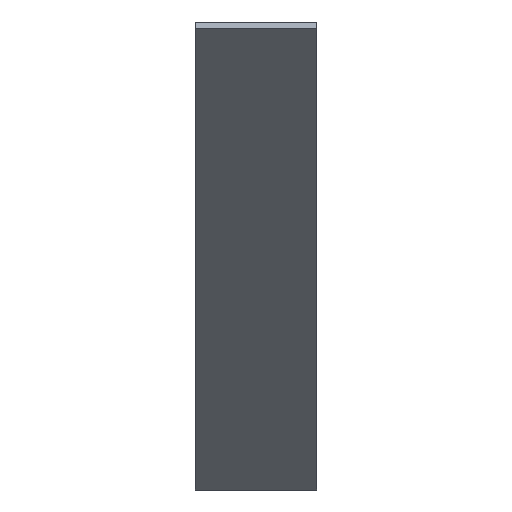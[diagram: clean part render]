
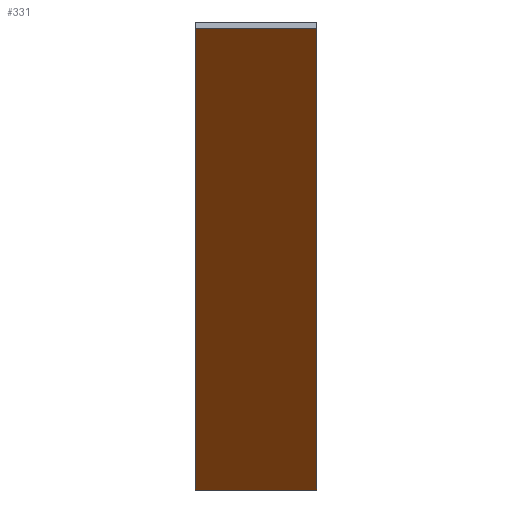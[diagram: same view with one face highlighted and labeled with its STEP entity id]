
A CAD part, left-side view. The second image highlights one B-rep face of the part: STEP entity #331.
In plain terms, the highlighted planar face has unit normal (-0.454, 0, -0.891).
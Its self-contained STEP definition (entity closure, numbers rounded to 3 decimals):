
#22 = VERTEX_POINT('',#23);
#23 = CARTESIAN_POINT('',(-380.,204.,277.));
#32 = PLANE('',#33);
#33 = AXIS2_PLACEMENT_3D('',#34,#35,#36);
#34 = CARTESIAN_POINT('',(-380.,204.,277.));
#35 = DIRECTION('',(-0.,1.,0.));
#36 = DIRECTION('',(0.891,0.,-0.454));
#44 = PLANE('',#45);
#45 = AXIS2_PLACEMENT_3D('',#46,#47,#48);
#46 = CARTESIAN_POINT('',(-380.,252.,277.));
#47 = DIRECTION('',(0.891,0.,-0.454));
#48 = DIRECTION('',(0.,-1.,0.));
#85 = VERTEX_POINT('',#86);
#86 = CARTESIAN_POINT('',(-22.5,204.,95.));
#100 = PLANE('',#101);
#101 = AXIS2_PLACEMENT_3D('',#102,#103,#104);
#102 = CARTESIAN_POINT('',(-22.5,204.,95.));
#103 = DIRECTION('',(-0.891,0.,0.454));
#104 = DIRECTION('',(0.,1.,0.));
#112 = EDGE_CURVE('',#22,#85,#113,.T.);
#113 = SURFACE_CURVE('',#114,(#118,#125),.PCURVE_S1.);
#114 = LINE('',#115,#116);
#115 = CARTESIAN_POINT('',(-380.,204.,277.));
#116 = VECTOR('',#117,1.);
#117 = DIRECTION('',(0.891,0.,-0.454));
#118 = PCURVE('',#32,#119);
#119 = DEFINITIONAL_REPRESENTATION('',(#120),#124);
#120 = LINE('',#121,#122);
#121 = CARTESIAN_POINT('',(0.,0.));
#122 = VECTOR('',#123,1.);
#123 = DIRECTION('',(1.,0.));
#124 = ( GEOMETRIC_REPRESENTATION_CONTEXT(2) 
PARAMETRIC_REPRESENTATION_CONTEXT() REPRESENTATION_CONTEXT('2D SPACE',''
  ) );
#125 = PCURVE('',#126,#131);
#126 = PLANE('',#127);
#127 = AXIS2_PLACEMENT_3D('',#128,#129,#130);
#128 = CARTESIAN_POINT('',(-201.25,228.,186.));
#129 = DIRECTION('',(0.454,0.,0.891));
#130 = DIRECTION('',(0.891,0.,-0.454)
  );
#131 = DEFINITIONAL_REPRESENTATION('',(#132),#136);
#132 = LINE('',#133,#134);
#133 = CARTESIAN_POINT('',(-200.581,-24.));
#134 = VECTOR('',#135,1.);
#135 = DIRECTION('',(1.,0.));
#136 = ( GEOMETRIC_REPRESENTATION_CONTEXT(2) 
PARAMETRIC_REPRESENTATION_CONTEXT() REPRESENTATION_CONTEXT('2D SPACE',''
  ) );
#166 = VERTEX_POINT('',#167);
#167 = CARTESIAN_POINT('',(-22.5,252.,95.));
#181 = PLANE('',#182);
#182 = AXIS2_PLACEMENT_3D('',#183,#184,#185);
#183 = CARTESIAN_POINT('',(-22.5,252.,95.));
#184 = DIRECTION('',(0.,-1.,0.));
#185 = DIRECTION('',(-0.891,0.,0.454));
#193 = EDGE_CURVE('',#85,#166,#194,.T.);
#194 = SURFACE_CURVE('',#195,(#199,#206),.PCURVE_S1.);
#195 = LINE('',#196,#197);
#196 = CARTESIAN_POINT('',(-22.5,204.,95.));
#197 = VECTOR('',#198,1.);
#198 = DIRECTION('',(0.,1.,0.));
#199 = PCURVE('',#100,#200);
#200 = DEFINITIONAL_REPRESENTATION('',(#201),#205);
#201 = LINE('',#202,#203);
#202 = CARTESIAN_POINT('',(0.,0.));
#203 = VECTOR('',#204,1.);
#204 = DIRECTION('',(1.,0.));
#205 = ( GEOMETRIC_REPRESENTATION_CONTEXT(2) 
PARAMETRIC_REPRESENTATION_CONTEXT() REPRESENTATION_CONTEXT('2D SPACE',''
  ) );
#206 = PCURVE('',#126,#207);
#207 = DEFINITIONAL_REPRESENTATION('',(#208),#212);
#208 = LINE('',#209,#210);
#209 = CARTESIAN_POINT('',(200.581,-24.));
#210 = VECTOR('',#211,1.);
#211 = DIRECTION('',(0.,1.));
#212 = ( GEOMETRIC_REPRESENTATION_CONTEXT(2) 
PARAMETRIC_REPRESENTATION_CONTEXT() REPRESENTATION_CONTEXT('2D SPACE',''
  ) );
#242 = VERTEX_POINT('',#243);
#243 = CARTESIAN_POINT('',(-380.,252.,277.));
#264 = EDGE_CURVE('',#166,#242,#265,.T.);
#265 = SURFACE_CURVE('',#266,(#270,#277),.PCURVE_S1.);
#266 = LINE('',#267,#268);
#267 = CARTESIAN_POINT('',(-22.5,252.,95.));
#268 = VECTOR('',#269,1.);
#269 = DIRECTION('',(-0.891,0.,0.454));
#270 = PCURVE('',#181,#271);
#271 = DEFINITIONAL_REPRESENTATION('',(#272),#276);
#272 = LINE('',#273,#274);
#273 = CARTESIAN_POINT('',(0.,-0.));
#274 = VECTOR('',#275,1.);
#275 = DIRECTION('',(1.,0.));
#276 = ( GEOMETRIC_REPRESENTATION_CONTEXT(2) 
PARAMETRIC_REPRESENTATION_CONTEXT() REPRESENTATION_CONTEXT('2D SPACE',''
  ) );
#277 = PCURVE('',#126,#278);
#278 = DEFINITIONAL_REPRESENTATION('',(#279),#283);
#279 = LINE('',#280,#281);
#280 = CARTESIAN_POINT('',(200.581,24.));
#281 = VECTOR('',#282,1.);
#282 = DIRECTION('',(-1.,0.));
#283 = ( GEOMETRIC_REPRESENTATION_CONTEXT(2) 
PARAMETRIC_REPRESENTATION_CONTEXT() REPRESENTATION_CONTEXT('2D SPACE',''
  ) );
#311 = EDGE_CURVE('',#242,#22,#312,.T.);
#312 = SURFACE_CURVE('',#313,(#317,#324),.PCURVE_S1.);
#313 = LINE('',#314,#315);
#314 = CARTESIAN_POINT('',(-380.,252.,277.));
#315 = VECTOR('',#316,1.);
#316 = DIRECTION('',(0.,-1.,0.));
#317 = PCURVE('',#44,#318);
#318 = DEFINITIONAL_REPRESENTATION('',(#319),#323);
#319 = LINE('',#320,#321);
#320 = CARTESIAN_POINT('',(0.,-0.));
#321 = VECTOR('',#322,1.);
#322 = DIRECTION('',(1.,0.));
#323 = ( GEOMETRIC_REPRESENTATION_CONTEXT(2) 
PARAMETRIC_REPRESENTATION_CONTEXT() REPRESENTATION_CONTEXT('2D SPACE',''
  ) );
#324 = PCURVE('',#126,#325);
#325 = DEFINITIONAL_REPRESENTATION('',(#326),#330);
#326 = LINE('',#327,#328);
#327 = CARTESIAN_POINT('',(-200.581,24.));
#328 = VECTOR('',#329,1.);
#329 = DIRECTION('',(0.,-1.));
#330 = ( GEOMETRIC_REPRESENTATION_CONTEXT(2) 
PARAMETRIC_REPRESENTATION_CONTEXT() REPRESENTATION_CONTEXT('2D SPACE',''
  ) );
#331 = ADVANCED_FACE('',(#332),#126,.F.);
#332 = FACE_BOUND('',#333,.F.);
#333 = EDGE_LOOP('',(#334,#335,#336,#337));
#334 = ORIENTED_EDGE('',*,*,#112,.T.);
#335 = ORIENTED_EDGE('',*,*,#193,.T.);
#336 = ORIENTED_EDGE('',*,*,#264,.T.);
#337 = ORIENTED_EDGE('',*,*,#311,.T.);
